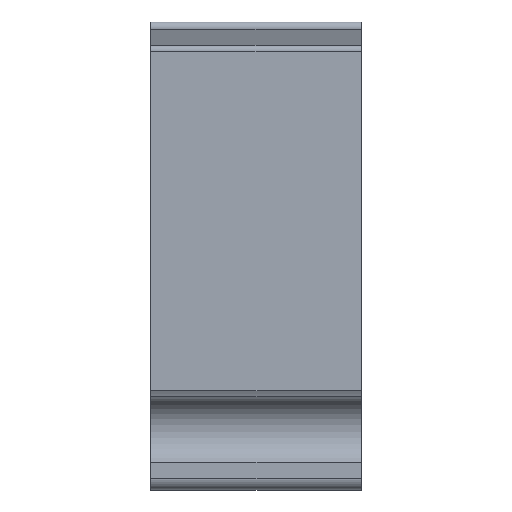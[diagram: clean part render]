
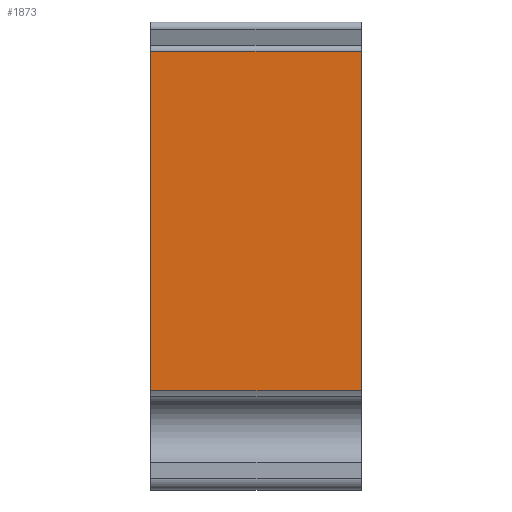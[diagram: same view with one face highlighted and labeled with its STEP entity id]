
A CAD part, left-side view. The second image highlights one B-rep face of the part: STEP entity #1873.
In plain terms, the highlighted planar face has unit normal (-1, 0, 0).
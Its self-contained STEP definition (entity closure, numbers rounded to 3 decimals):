
#106=LINE('',#2817,#274);
#147=LINE('',#2994,#315);
#204=LINE('',#3123,#372);
#215=LINE('',#3187,#383);
#274=VECTOR('',#2243,29.033);
#315=VECTOR('',#2372,29.033);
#372=VECTOR('',#2501,18.);
#383=VECTOR('',#2544,18.);
#452=PLANE('',#2044);
#573=FACE_OUTER_BOUND('',#697,.T.);
#697=EDGE_LOOP('',(#1649,#1650,#1651,#1652));
#839=VERTEX_POINT('',#2814);
#840=VERTEX_POINT('',#2816);
#897=VERTEX_POINT('',#2991);
#898=VERTEX_POINT('',#2993);
#1030=EDGE_CURVE('',#839,#840,#106,.T.);
#1102=EDGE_CURVE('',#897,#898,#147,.T.);
#1167=EDGE_CURVE('',#840,#897,#204,.T.);
#1181=EDGE_CURVE('',#839,#898,#215,.T.);
#1649=ORIENTED_EDGE('',*,*,#1167,.F.);
#1650=ORIENTED_EDGE('',*,*,#1030,.F.);
#1651=ORIENTED_EDGE('',*,*,#1181,.T.);
#1652=ORIENTED_EDGE('',*,*,#1102,.F.);
#1873=ADVANCED_FACE('',(#573),#452,.T.);
#2044=AXIS2_PLACEMENT_3D('',#3189,#2547,#2548);
#2243=DIRECTION('',(0.,0.,1.));
#2372=DIRECTION('',(0.,0.,-1.));
#2501=DIRECTION('',(0.,-1.,0.));
#2544=DIRECTION('',(0.,-1.,0.));
#2547=DIRECTION('center_axis',(-1.,0.,0.));
#2548=DIRECTION('ref_axis',(0.,0.,-1.));
#2814=CARTESIAN_POINT('',(-21.55,7.896,-11.087));
#2816=CARTESIAN_POINT('',(-21.55,7.896,17.946));
#2817=CARTESIAN_POINT('',(-21.55,7.896,-19.554));
#2991=CARTESIAN_POINT('',(-21.55,-10.104,17.946));
#2993=CARTESIAN_POINT('',(-21.55,-10.104,-11.087));
#2994=CARTESIAN_POINT('',(-21.55,-10.104,-19.554));
#3123=CARTESIAN_POINT('',(-21.55,-1.104,17.946));
#3187=CARTESIAN_POINT('',(-21.55,-10.104,-11.087));
#3189=CARTESIAN_POINT('Origin',(-21.55,7.896,20.446));
